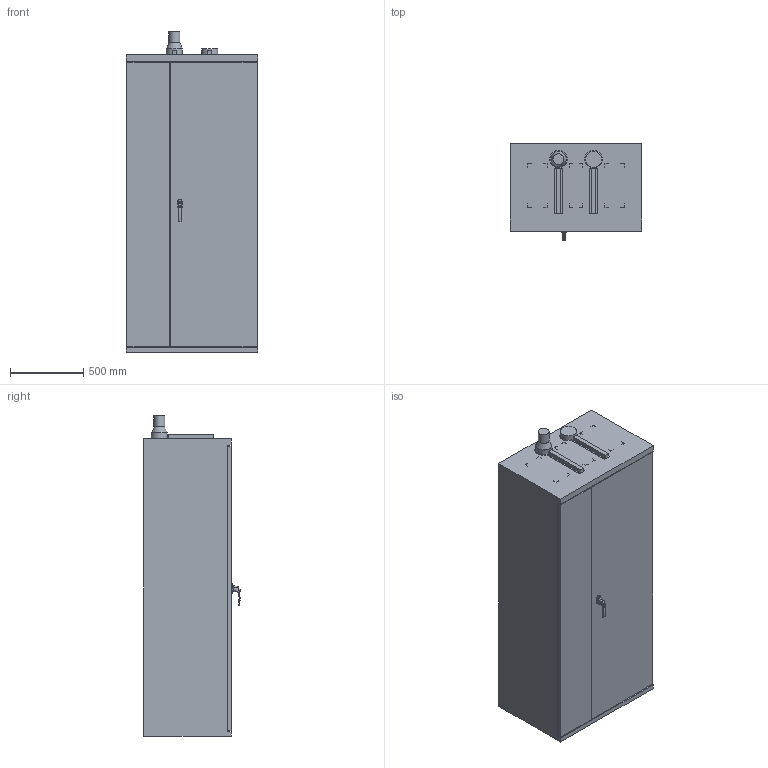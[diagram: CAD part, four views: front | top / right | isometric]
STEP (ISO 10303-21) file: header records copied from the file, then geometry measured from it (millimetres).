
FILE_DESCRIPTION(/* description */ ('Unknown'),/* implementation_level */ '2;1');
FILE_NAME(/* name */ '73-200960_VDK',/* time_stamp */ '2019-04-11T11:05:08+02:00',/* author */ ('Unknown'),/* organization */ ('Unknown'),/* preprocessor_version */ 'ST-DEVELOPER v16.7',/* originating_system */ 'DEX',/* authorisation */ $);
FILE_SCHEMA (('AUTOMOTIVE_DESIGN {1 0 10303 214 3 1 1}'));
Length unit declared in the file: millimetre
Products named in the file (1): 73-200960_VDK
Bounding box: 895 x 657.2 x 2187 mm (x, y, z)
Volume: 1084031874.1 mm3; surface area: 7412699.8 mm2
Topology: 1 solids, 1 shells, 174 faces, 427 edges, 276 vertices
Faces by surface type: plane 137, cylinder 22, bspline 10, sphere 2, torus 2, cone 1
Full cylindrical faces by diameter (mm): 15 x1, 20 x1, 75 x1, 110 x2, 120 x2
Entity records: 6461 total; most frequent: CARTESIAN_POINT 1206, ORIENTED_EDGE 824, DIRECTION 775, EDGE_CURVE 412, LINE 345, VECTOR 345, VERTEX_POINT 273, AXIS2_PLACEMENT_3D 215
